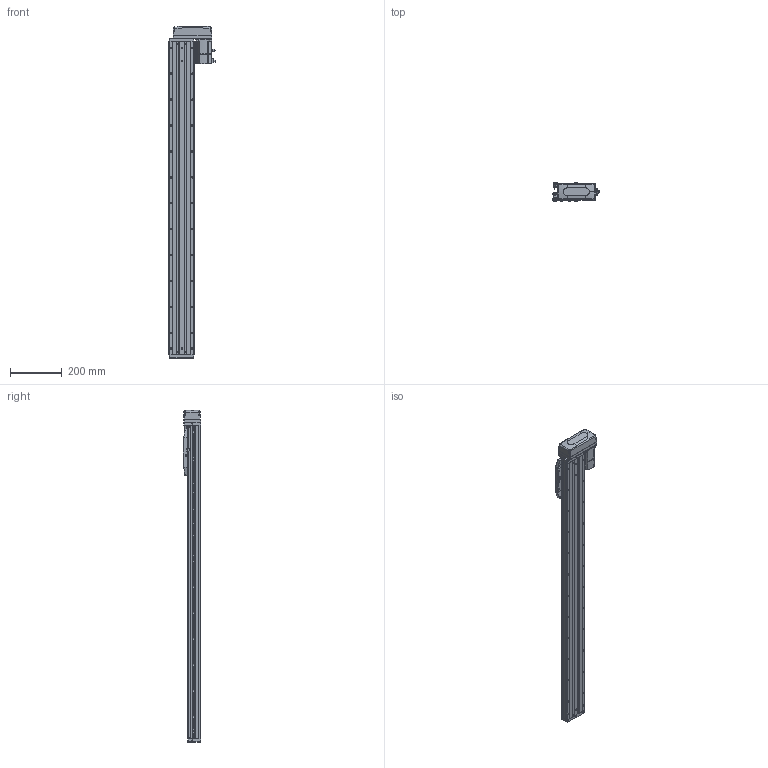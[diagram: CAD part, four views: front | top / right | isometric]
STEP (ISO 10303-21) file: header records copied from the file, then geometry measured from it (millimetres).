
FILE_DESCRIPTION (( 'STEP AP203' ), '1' );
FILE_NAME ('CTHA100-1000-BL-M20-C4L.step', '2022-07-06T08:55:53', ( '微软用户' ), ( '微软中国' ), 'SwSTEP 2.0', 'SolidWorks 2020', '' );
FILE_SCHEMA (( 'CONFIG_CONTROL_DESIGN' ));
Length unit declared in the file: millimetre
Products named in the file (19): CTHA86-033; EE_SX911P_R; _X2_4E0983F1_X0_200W_1; CTHA100-1000-BL-M20-C4L; CTHA60-017; CTHA100-002; CTHA60-021; CTHA100-031; KTHA100-001_1210; GBT77-2000 M3×3; CTHA86-030; KTHA100-004; GBT 70.1-M3℅6; GBT 70.3-M3℅6; KTHA100-005; GBT70.1 M5℅16; CTHA86-015-1_CTHA86-015-2; GB¨uT 70.2-M3¡Á5_M3¡Á6; CTHA60-016
Assembly tree (64 placements, depth 2):
  CTHA100-1000-BL-M20-C4L
    KTHA100-001_1210
    KTHA100-004
    KTHA100-005
    GB¨uT 70.2-M3¡Á5_M3¡Á6  x10
    EE_SX911P_R  x3
    CTHA60-017  x3
    CTHA60-021  x2
    GBT77-2000 M3×3  x6
    GBT 70.1-M3℅6  x10
    GBT70.1 M5℅16  x14
    CTHA60-016  x2
    _X2_4E0983F1_X0_200W_1
    CTHA100-002
    CTHA100-031
    CTHA86-030  x2
    GBT 70.3-M3℅6  x4
    CTHA86-015-1_CTHA86-015-2
    CTHA86-033
Bounding box: 177.7 x 68 x 1281 mm (x, y, z)
Volume: 5080246 mm3; surface area: 839145.2 mm2
Topology: 66 solids, 66 shells, 2769 faces, 6695 edges, 4156 vertices
Faces by surface type: plane 1452, cylinder 731, cone 363, torus 124, bspline 75, sphere 24
Entity records: 49222 total; most frequent: CARTESIAN_POINT 9595, DIRECTION 7644, ORIENTED_EDGE 7506, EDGE_CURVE 3753, AXIS2_PLACEMENT_3D 2577, VECTOR 2490, LINE 2490, VERTEX_POINT 2376
